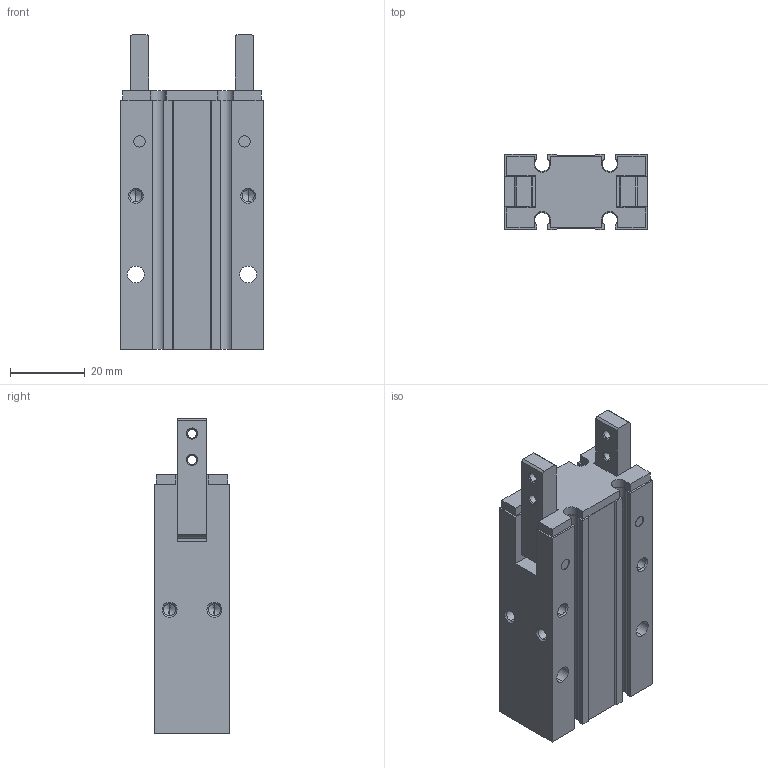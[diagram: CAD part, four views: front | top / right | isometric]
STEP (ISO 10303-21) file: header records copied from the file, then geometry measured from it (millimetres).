
FILE_DESCRIPTION (( 'STEP AP203' ), '1' );
FILE_NAME ('CHY2-16D.STEP', '2018-11-23T18:53:17', ( '' ), ( '' ), 'SwSTEP 2.0', 'SolidWorks 2018', '' );
FILE_SCHEMA (( 'CONFIG_CONTROL_DESIGN' ));
Length unit declared in the file: millimetre
Products named in the file (1): CHY2-16D
Bounding box: 38 x 20 x 84 mm (x, y, z)
Volume: 45931.2 mm3; surface area: 17124.2 mm2
Topology: 3 solids, 3 shells, 219 faces, 561 edges, 344 vertices
Faces by surface type: plane 84, cylinder 79, cone 56
Entity records: 6582 total; most frequent: DIRECTION 1175, CARTESIAN_POINT 1105, ORIENTED_EDGE 1082, EDGE_CURVE 541, AXIS2_PLACEMENT_3D 414, VECTOR 347, LINE 347, VERTEX_POINT 344
